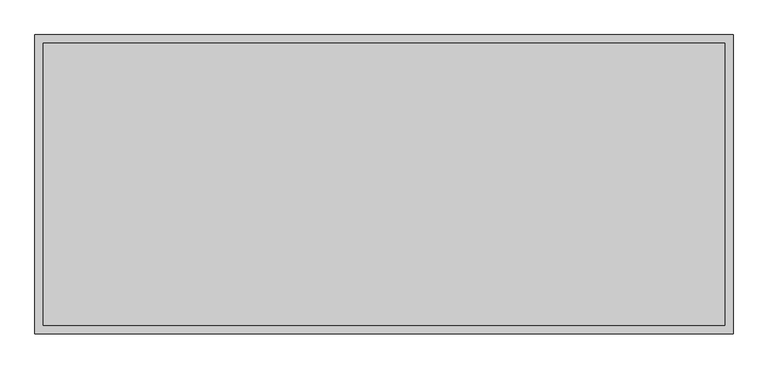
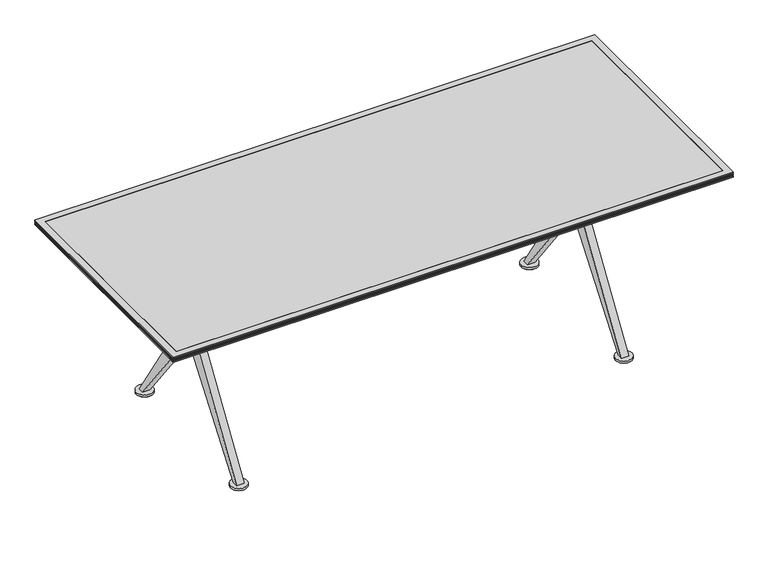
"""IFC4 building model written with IfcOpenShell, lengths in millimetres: furniture geometry, Coalesse_AM_Table_Conference_Ballet_Rectangular_XBase : Folding - 84L x 36W."""

from ifc_helpers import new_model, si_unit, point, frame, frame_2d, origin, origin_with_axes, place, context, project, spatial, polyline, circle_curve, trimmed, segment, composite_curve, outline, extrude, faceted_brep, source, transform, mapped, element, save
from ifc_brep_helpers import plane_surface, cylinder_surface, advanced_brep


def furniture_23439573(model_context):
    return source(origin(), model_context, "Body", "SolidModel", [
        extrude(outline(composite_curve([segment(trimmed(circle_curve(frame_2d((-733.4365536, 310.3799254)), 25.4), [point((-758.8365536, 310.3799254))], [point((-708.0365536, 310.3799254))], False, "CARTESIAN"), True, "CONTINUOUS"), segment(trimmed(circle_curve(frame_2d((-733.4365536, 310.3799254)), 25.4), [point((-708.0365536, 310.3799254))], [point((-758.8365536, 310.3799254))], False, "CARTESIAN"), True, "CONTINUOUS")], self_intersect=False)), origin_with_axes(), (0.0, 0.0, 1.0), 4.5427804),
        extrude(outline(composite_curve([segment(trimmed(circle_curve(frame_2d((-734.0541541, -311.83186)), 25.4), [point((-759.4541541, -311.83186))], [point((-708.6541541, -311.83186))], False, "CARTESIAN"), True, "CONTINUOUS"), segment(trimmed(circle_curve(frame_2d((-734.0541541, -311.83186)), 25.4), [point((-708.6541541, -311.83186))], [point((-759.4541541, -311.83186))], False, "CARTESIAN"), True, "CONTINUOUS")], self_intersect=False)), origin_with_axes(), (0.0, 0.0, 1.0), 4.5427804),
        extrude(outline(composite_curve([segment(trimmed(circle_curve(frame_2d((733.4365536, 310.388)), 25.4), [point((708.0365536, 310.388))], [point((758.8365536, 310.388))], False, "CARTESIAN"), True, "CONTINUOUS"), segment(trimmed(circle_curve(frame_2d((733.4365536, 310.388)), 25.4), [point((758.8365536, 310.388))], [point((708.0365536, 310.388))], False, "CARTESIAN"), True, "CONTINUOUS")], self_intersect=False)), origin_with_axes(), (0.0, 0.0, 1.0), 4.5427804),
        extrude(outline(composite_curve([segment(trimmed(circle_curve(frame_2d((734.0541541, -311.83186)), 25.4), [point((708.6541541, -311.83186))], [point((759.4541541, -311.83186))], False, "CARTESIAN"), True, "CONTINUOUS"), segment(trimmed(circle_curve(frame_2d((734.0541541, -311.83186)), 25.4), [point((759.4541541, -311.83186))], [point((708.6541541, -311.83186))], False, "CARTESIAN"), True, "CONTINUOUS")], self_intersect=False)), origin_with_axes(), (0.0, 0.0, 1.0), 4.5427804),
        extrude(outline(composite_curve([segment(trimmed(circle_curve(frame_2d((-733.4365536, 310.3799254)), 31.7510292), [point((-765.1875828, 310.3799254))], [point((-701.6855244, 310.3799254))], False, "CARTESIAN"), True, "CONTINUOUS"), segment(trimmed(circle_curve(frame_2d((-733.4365536, 310.3799254)), 31.7510292), [point((-701.6855244, 310.3799254))], [point((-765.1875828, 310.3799254))], False, "CARTESIAN"), True, "CONTINUOUS")], self_intersect=False)), frame((0.0, 0.0, 4.5427804), z_axis=(0.0, 0.0, 1.0), x_axis=(1.0, 0.0, 0.0)), (0.0, 0.0, 1.0), 8.1572196),
        extrude(outline(composite_curve([segment(trimmed(circle_curve(frame_2d((-734.0541541, -311.83186)), 31.75), [point((-765.8041541, -311.83186))], [point((-702.3041541, -311.83186))], False, "CARTESIAN"), True, "CONTINUOUS"), segment(trimmed(circle_curve(frame_2d((-734.0541541, -311.83186)), 31.75), [point((-702.3041541, -311.83186))], [point((-765.8041541, -311.83186))], False, "CARTESIAN"), True, "CONTINUOUS")], self_intersect=False)), frame((0.0, 0.0, 4.5427804), z_axis=(0.0, 0.0, 1.0), x_axis=(1.0, 0.0, 0.0)), (0.0, 0.0, 1.0), 8.1572196),
        extrude(outline(composite_curve([segment(trimmed(circle_curve(frame_2d((733.4365536, 310.388)), 31.7510292), [point((701.6855244, 310.388))], [point((765.1875828, 310.388))], False, "CARTESIAN"), True, "CONTINUOUS"), segment(trimmed(circle_curve(frame_2d((733.4365536, 310.388)), 31.7510292), [point((765.1875828, 310.388))], [point((701.6855244, 310.388))], False, "CARTESIAN"), True, "CONTINUOUS")], self_intersect=False)), frame((0.0, 0.0, 4.5427804), z_axis=(0.0, 0.0, 1.0), x_axis=(1.0, 0.0, 0.0)), (0.0, 0.0, 1.0), 8.1572196),
        extrude(outline(composite_curve([segment(trimmed(circle_curve(frame_2d((734.0541541, -311.83186)), 31.75), [point((702.3041541, -311.83186))], [point((765.8041541, -311.83186))], False, "CARTESIAN"), True, "CONTINUOUS"), segment(trimmed(circle_curve(frame_2d((734.0541541, -311.83186)), 31.75), [point((765.8041541, -311.83186))], [point((702.3041541, -311.83186))], False, "CARTESIAN"), True, "CONTINUOUS")], self_intersect=False)), frame((0.0, 0.0, 4.5427804), z_axis=(0.0, 0.0, 1.0), x_axis=(1.0, 0.0, 0.0)), (0.0, 0.0, 1.0), 8.1572196),
        extrude(outline(polyline([(21.0343629, 381.0), (21.0343629, 482.7111245), (322.2625018, 12.7), (299.8750745, 12.7), (21.0343629, 381.0)])), frame((719.1375, 0.0, 0.0), z_axis=(1.0, 0.0, 0.0), x_axis=(0.0, 1.0, 0.0)), (0.0, 0.0, 1.0), 28.575),
        extrude(outline(polyline([(-21.0343629, 381.0), (-299.8750745, 12.7), (-322.2625018, 12.7), (-21.0343629, 482.7111245), (-21.0343629, 381.0)])), frame((719.1375, 0.0, 0.0), z_axis=(1.0, 0.0, 0.0), x_axis=(0.0, 1.0, 0.0)), (0.0, 0.0, 1.0), 28.575),
        extrude(outline(polyline([(21.0343629, 381.0), (21.0343629, 482.7111245), (322.2625018, 12.7), (299.8750745, 12.7), (21.0343629, 381.0)])), frame((-747.7125, 0.0, 0.0), z_axis=(1.0, 0.0, 0.0), x_axis=(0.0, 1.0, 0.0)), (0.0, 0.0, 1.0), 28.5877172),
        extrude(outline(polyline([(-21.0343629, 381.0), (-299.8750745, 12.7), (-322.2625018, 12.7), (-21.0343629, 482.7111245), (-21.0343629, 381.0)])), frame((-747.7125, 0.0, 0.0), z_axis=(1.0, 0.0, 0.0), x_axis=(0.0, 1.0, 0.0)), (0.0, 0.0, 1.0), 28.5877172),
        extrude(outline(polyline([(-21.0343629, 577.7388634), (-333.375, 698.5000242), (-305.990625, 698.5000242), (-21.0343629, 641.3500242), (-21.0343629, 577.7388634)])), frame((719.1375, 0.0, 0.0), z_axis=(1.0, 0.0, 0.0), x_axis=(0.0, 1.0, 0.0)), (0.0, 0.0, 1.0), 28.575),
        extrude(outline(polyline([(21.0343629, 577.7388634), (21.0343629, 641.3501773), (305.990625, 698.5000242), (333.375, 698.5000242), (21.0343629, 577.7388634)])), frame((719.1375, 0.0, 0.0), z_axis=(1.0, 0.0, 0.0), x_axis=(0.0, 1.0, 0.0)), (0.0, 0.0, 1.0), 28.575),
        extrude(outline(polyline([(-21.0343629, 577.7388634), (-333.375, 698.5000242), (-305.990625, 698.5000242), (-21.0343629, 641.3500242), (-21.0343629, 577.7388634)])), frame((-747.7125, 0.0, 0.0), z_axis=(1.0, 0.0, 0.0), x_axis=(0.0, 1.0, 0.0)), (0.0, 0.0, 1.0), 28.5877172),
        extrude(outline(polyline([(21.0343629, 577.7388634), (21.0343629, 641.3501773), (305.990625, 698.5000242), (333.375, 698.5000242), (21.0343629, 577.7388634)])), frame((-747.7125, 0.0, 0.0), z_axis=(1.0, 0.0, 0.0), x_axis=(0.0, 1.0, 0.0)), (0.0, 0.0, 1.0), 28.5877172),
        advanced_brep(
        [(712.0154775, 12.6999879, 492.1250121), (-712.0154775, 12.6999879, 492.1250121), (-712.0154775, 12.6999879, 568.3250121), (712.0154775, 12.6999879, 568.3250121), (-708.6125298, 0.0, 568.3250121), (-712.0154775, -12.6999879, 568.3250121), (712.0154775, -12.6999879, 568.3250121), (708.6125298, 0.0, 568.3250121), (-712.0154775, -12.6999879, 492.1250121), (712.0154775, -12.6999879, 492.1250121), (708.6125298, 0.0, 492.1250121), (-708.6125298, 0.0, 492.1250121), (-759.4125298, 0.0, 641.3500242), (-708.6125298, 0.0, 641.3500242), (708.6125298, 0.0, 641.3500242), (759.4125298, 0.0, 641.3500242), (-759.4125298, 0.0, 381.0), (-708.6125298, 0.0, 381.0), (708.6125298, 0.0, 381.0), (759.4125298, 0.0, 381.0)],
        [
            (0, 1),
            (1, 2),
            (2, 3),
            (3, 0),
            (2, 4, circle_curve(frame((-734.0125298, 0.0, 568.3250121), z_axis=(0.0, 0.0, -1.0), x_axis=(1.0, 0.0, 0.0)), 25.4)),
            (4, 5, circle_curve(frame((-734.0125298, 0.0, 568.3250121), z_axis=(0.0, 0.0, -1.0), x_axis=(1.0, 0.0, 0.0)), 25.4)),
            (5, 6),
            (6, 7, circle_curve(frame((734.0125298, 0.0, 568.3250121), z_axis=(0.0, 0.0, -1.0), x_axis=(1.0, 0.0, 0.0)), 25.4)),
            (7, 3, circle_curve(frame((734.0125298, 0.0, 568.3250121), z_axis=(0.0, 0.0, -1.0), x_axis=(1.0, 0.0, 0.0)), 25.4)),
            (5, 8),
            (8, 9),
            (9, 6),
            (0, 10, circle_curve(frame((734.0125298, 0.0, 492.1250121), z_axis=(0.0, 0.0, 1.0), x_axis=(1.0, 0.0, 0.0)), 25.4)),
            (10, 9, circle_curve(frame((734.0125298, 0.0, 492.1250121), z_axis=(0.0, 0.0, 1.0), x_axis=(1.0, 0.0, 0.0)), 25.4)),
            (8, 11, circle_curve(frame((-734.0125298, 0.0, 492.1250121), z_axis=(0.0, 0.0, 1.0), x_axis=(1.0, 0.0, 0.0)), 25.4)),
            (11, 1, circle_curve(frame((-734.0125298, 0.0, 492.1250121), z_axis=(0.0, 0.0, 1.0), x_axis=(1.0, 0.0, 0.0)), 25.4)),
            (12, 13, circle_curve(frame((-734.0125298, 0.0, 641.3500242), z_axis=(0.0, 0.0, 1.0), x_axis=(1.0, 0.0, 0.0)), 25.4)),
            (13, 12, circle_curve(frame((-734.0125298, 0.0, 641.3500242), z_axis=(0.0, 0.0, 1.0), x_axis=(1.0, 0.0, 0.0)), 25.4)),
            (14, 15, circle_curve(frame((734.0125298, 0.0, 641.3500242), z_axis=(0.0, 0.0, 1.0), x_axis=(1.0, 0.0, 0.0)), 25.4)),
            (15, 14, circle_curve(frame((734.0125298, 0.0, 641.3500242), z_axis=(0.0, 0.0, 1.0), x_axis=(1.0, 0.0, 0.0)), 25.4)),
            (16, 17, circle_curve(frame((-734.0125298, 0.0, 381.0), z_axis=(0.0, 0.0, -1.0), x_axis=(1.0, 0.0, 0.0)), 25.4)),
            (17, 16, circle_curve(frame((-734.0125298, 0.0, 381.0), z_axis=(0.0, 0.0, -1.0), x_axis=(1.0, 0.0, 0.0)), 25.4)),
            (18, 19, circle_curve(frame((734.0125298, 0.0, 381.0), z_axis=(0.0, 0.0, -1.0), x_axis=(1.0, 0.0, 0.0)), 25.4)),
            (19, 18, circle_curve(frame((734.0125298, 0.0, 381.0), z_axis=(0.0, 0.0, -1.0), x_axis=(1.0, 0.0, 0.0)), 25.4)),
            (12, 16),
            (17, 11),
            (4, 13),
            (14, 7),
            (10, 18),
            (19, 15),
        ],
        [
            plane_surface(frame((719.1375, 12.6999879, 492.1250121), z_axis=(0.0, 1.0, 0.0), x_axis=(-1.0, 0.0, 0.0))),
            plane_surface(frame((719.1375, 12.6999879, 568.3250121), z_axis=(0.0, 0.0, 1.0), x_axis=(-1.0, 0.0, 0.0))),
            plane_surface(frame((719.1375, -12.6999879, 568.3250121), z_axis=(0.0, -1.0, 0.0), x_axis=(-1.0, 0.0, 0.0))),
            plane_surface(frame((719.1375, -12.6999879, 492.1250121), z_axis=(0.0, 0.0, -1.0), x_axis=(-1.0, 0.0, 0.0))),
            plane_surface(frame((-708.6125298, 0.0, 641.3500242), z_axis=(0.0, 0.0, 1.0), x_axis=(0.0, 1.0, 0.0))),
            plane_surface(frame((-708.6125298, 0.0, 381.0), z_axis=(0.0, 0.0, -1.0), x_axis=(0.0, -1.0, 0.0))),
            cylinder_surface(frame((-734.0125298, 0.0, 381.0), z_axis=(0.0, 0.0, 1.0), x_axis=(1.0, 0.0, 0.0)), 25.4),
            cylinder_surface(frame((734.0125298, 0.0, 0.0), z_axis=(0.0, 0.0, 1.0), x_axis=(1.0, 0.0, 0.0)), 25.4),
        ],
        [
            (0, [[1, 2, 3, 4]]),
            (1, [[-3, 5, 6, 7, 8, 9]]),
            (2, [[-7, 10, 11, 12]]),
            (3, [[-1, 13, 14, -11, 15, 16]]),
            (4, [[17, 18]]),
            (4, [[19, 20]]),
            (5, [[21, 22]]),
            (5, [[23, 24]]),
            (6, [[-17, 25, -22, 26, -15, -10, -6, 27]]),
            (6, [[-18, -27, -5, -2, -16, -26, -21, -25]]),
            (7, [[-19, 28, -8, -12, -14, 29, -24, 30]]),
            (7, [[-20, -30, -23, -29, -13, -4, -9, -28]]),
        ],
    ),
        faceted_brep([(-1066.8003633, 457.2, 704.85), (-1041.4003876, 431.8000242, 698.5000242), (-1041.4003876, -431.7999516, 698.5000242), (-1066.8003633, -457.1999273, 704.85), (-1066.8003633, 457.2, 708.0250242), (-1066.8003633, -457.1999273, 708.0250242), (-1063.6253755, 454.0250121, 709.6125), (-1063.6253755, -454.0249394, 709.6125), (-1066.8003633, 457.2, 711.1999758), (-1066.8003633, -457.1999273, 711.1999758), (-1063.6253755, 454.0250121, 712.7875242), (-1063.6253755, -454.0249394, 712.7875242), (-1066.8003633, 457.2, 714.375), (-1066.8003633, -457.1999273, 714.375), (-1063.6253755, 454.0250121, 715.9624758), (-1063.6253755, -454.0249394, 715.9624758), (-1066.8003633, 457.2, 717.5500242), (-1066.8003633, -457.1999273, 717.5500242), (-1063.6253755, 454.0250121, 719.1375), (-1063.6253755, -454.0249394, 719.1375), (-1066.8003633, 457.2, 720.7249758), (-1066.8003633, -457.1999273, 720.7249758), (-1066.8003633, 457.2, 723.9), (-1066.8003633, -457.1999273, 723.9), (-1041.4003876, 431.8000242, 723.9), (-1041.4003876, -431.7999516, 723.9), (1041.4, -431.7999516, 698.5000242), (1066.7999758, -457.1999273, 704.85), (1066.7999758, -457.1999273, 708.0250242), (1063.6249879, -454.0249394, 709.6125), (1066.7999758, -457.1999273, 711.1999758), (1063.6249879, -454.0249394, 712.7875242), (1066.7999758, -457.1999273, 714.375), (1063.6249879, -454.0249394, 715.9624758), (1066.7999758, -457.1999273, 717.5500242), (1063.6249879, -454.0249394, 719.1375), (1066.7999758, -457.1999273, 720.7249758), (1066.7999758, -457.1999273, 723.9), (1041.4, -431.7999516, 723.9), (1041.4, 431.8000242, 698.5000242), (1066.7999758, 457.2, 704.85), (1066.7999758, 457.2, 708.0250242), (1063.6249879, 454.0250121, 709.6125), (1066.7999758, 457.2, 711.1999758), (1063.6249879, 454.0250121, 712.7875242), (1066.7999758, 457.2, 714.375), (1063.6249879, 454.0250121, 715.9624758), (1066.7999758, 457.2, 717.5500242), (1063.6249879, 454.0250121, 719.1375), (1066.7999758, 457.2, 720.7249758), (1066.7999758, 457.2, 723.9), (1041.4, 431.8000242, 723.9)], [[[0, 1, 2, 3]], [[4, 0, 3, 5]], [[6, 4, 5, 7]], [[8, 6, 7, 9]], [[10, 8, 9, 11]], [[12, 10, 11, 13]], [[14, 12, 13, 15]], [[16, 14, 15, 17]], [[18, 16, 17, 19]], [[20, 18, 19, 21]], [[22, 20, 21, 23]], [[1, 24, 25, 2]], [[3, 2, 26, 27]], [[5, 3, 27, 28]], [[7, 5, 28, 29]], [[9, 7, 29, 30]], [[11, 9, 30, 31]], [[13, 11, 31, 32]], [[15, 13, 32, 33]], [[17, 15, 33, 34]], [[19, 17, 34, 35]], [[21, 19, 35, 36]], [[23, 21, 36, 37]], [[2, 25, 38, 26]], [[27, 26, 39, 40]], [[28, 27, 40, 41]], [[29, 28, 41, 42]], [[30, 29, 42, 43]], [[31, 30, 43, 44]], [[32, 31, 44, 45]], [[33, 32, 45, 46]], [[34, 33, 46, 47]], [[35, 34, 47, 48]], [[36, 35, 48, 49]], [[37, 36, 49, 50]], [[26, 38, 51, 39]], [[40, 39, 1, 0]], [[41, 40, 0, 4]], [[42, 41, 4, 6]], [[43, 42, 6, 8]], [[44, 43, 8, 10]], [[45, 44, 10, 12]], [[46, 45, 12, 14]], [[47, 46, 14, 16]], [[48, 47, 16, 18]], [[49, 48, 18, 20]], [[50, 49, 20, 22]], [[23, 37, 50, 22], [24, 51, 38, 25]], [[39, 51, 24, 1]]]),
        extrude(outline(polyline([(1041.4, 431.8000242), (1041.4, -431.7999516), (-1041.4003876, -431.7999516), (-1041.4003876, 431.8000242), (1041.4, 431.8000242)])), frame((0.0, 0.0, 704.85), z_axis=(0.0, 0.0, 1.0), x_axis=(1.0, 0.0, 0.0)), (0.0, 0.0, 1.0), 19.05),
    ])


if __name__ == "__main__":
    model = new_model("IFC4")
    model_context = context("Model", 3, world=origin())
    ifc_project = project(units=[si_unit("LENGTHUNIT", "METRE", prefix="MILLI")], contexts=[model_context])
    site = spatial("IfcSite", under=ifc_project)
    building = spatial("IfcBuilding", under=site)
    placement = place(None, origin())
    furniture_shape = furniture_23439573(model_context)
    element("IfcFurniture", 1, ObjectType="Coalesse_AM_Table_Conference_Ballet_Rectangular_XBase : Folding - 84L x 36W", at=placement, inside=building, context=model_context, shape_type="MappedRepresentation", body=[
        mapped(furniture_shape, transform((0.0, 0.0, 0.0), x_axis=(1.0, 0.0, 0.0), y_axis=(0.0, 1.0, 0.0), z_axis=(0.0, 0.0, 1.0))),
    ])
    save(model, "model.ifc")
